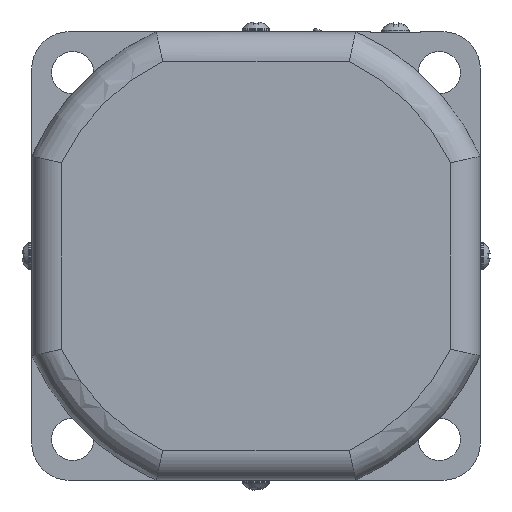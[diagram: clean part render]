
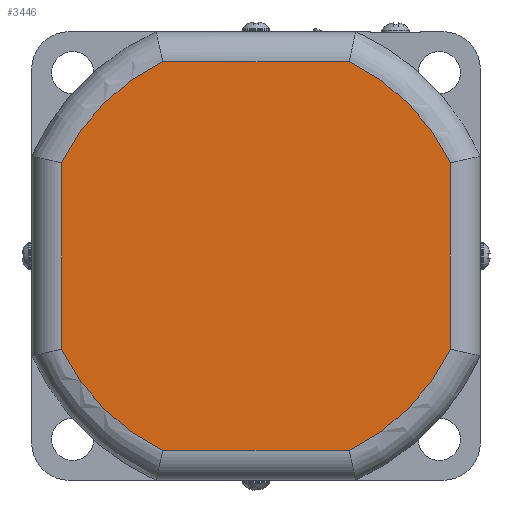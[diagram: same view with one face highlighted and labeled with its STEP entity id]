
A CAD part, left-side view. The second image highlights one B-rep face of the part: STEP entity #3446.
In plain terms, the highlighted planar face has unit normal (-1, 0, 0).
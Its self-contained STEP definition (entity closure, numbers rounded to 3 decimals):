
#353=FACE_OUTER_BOUND('',#580,.T.);
#580=EDGE_LOOP('',(#2636,#2637,#2638,#2639,#2640,#2641,#2642,#2643));
#768=CIRCLE('',#3700,43.25);
#769=CIRCLE('',#3704,43.25);
#772=CIRCLE('',#3708,43.25);
#773=CIRCLE('',#3712,43.25);
#982=LINE('',#5637,#1229);
#985=LINE('',#5657,#1232);
#986=LINE('',#5710,#1233);
#987=LINE('',#5727,#1234);
#1229=VECTOR('',#4327,37.393);
#1232=VECTOR('',#4332,37.393);
#1233=VECTOR('',#4347,37.393);
#1234=VECTOR('',#4350,37.393);
#1508=VERTEX_POINT('',#5587);
#1510=VERTEX_POINT('',#5604);
#1512=VERTEX_POINT('',#5622);
#1514=VERTEX_POINT('',#5641);
#1515=VERTEX_POINT('',#5659);
#1516=VERTEX_POINT('',#5677);
#1517=VERTEX_POINT('',#5695);
#1518=VERTEX_POINT('',#5712);
#1908=EDGE_CURVE('',#1510,#1508,#768,.T.);
#1910=EDGE_CURVE('',#1512,#1510,#982,.T.);
#1914=EDGE_CURVE('',#1508,#1514,#985,.T.);
#1916=EDGE_CURVE('',#1515,#1512,#769,.T.);
#1920=EDGE_CURVE('',#1514,#1516,#772,.T.);
#1922=EDGE_CURVE('',#1517,#1515,#986,.T.);
#1924=EDGE_CURVE('',#1516,#1518,#987,.T.);
#1925=EDGE_CURVE('',#1518,#1517,#773,.T.);
#2636=ORIENTED_EDGE('',*,*,#1924,.F.);
#2637=ORIENTED_EDGE('',*,*,#1920,.F.);
#2638=ORIENTED_EDGE('',*,*,#1914,.F.);
#2639=ORIENTED_EDGE('',*,*,#1908,.F.);
#2640=ORIENTED_EDGE('',*,*,#1910,.F.);
#2641=ORIENTED_EDGE('',*,*,#1916,.F.);
#2642=ORIENTED_EDGE('',*,*,#1922,.F.);
#2643=ORIENTED_EDGE('',*,*,#1925,.F.);
#3087=PLANE('',#3714);
#3446=ADVANCED_FACE('',(#353),#3087,.F.);
#3700=AXIS2_PLACEMENT_3D('',#5619,#4323,#4324);
#3704=AXIS2_PLACEMENT_3D('',#5674,#4335,#4336);
#3708=AXIS2_PLACEMENT_3D('',#5693,#4343,#4344);
#3712=AXIS2_PLACEMENT_3D('',#5729,#4353,#4354);
#3714=AXIS2_PLACEMENT_3D('',#5731,#4357,#4358);
#4323=DIRECTION('center_axis',(1.,0.,0.));
#4324=DIRECTION('ref_axis',(0.,0.707,-0.707));
#4327=DIRECTION('',(0.,1.,0.));
#4332=DIRECTION('',(0.,0.,1.));
#4335=DIRECTION('center_axis',(1.,0.,0.));
#4336=DIRECTION('ref_axis',(0.,-0.707,-0.707));
#4343=DIRECTION('center_axis',(1.,0.,0.));
#4344=DIRECTION('ref_axis',(0.,0.707,0.707));
#4347=DIRECTION('',(0.,0.,-1.));
#4350=DIRECTION('',(0.,-1.,0.));
#4353=DIRECTION('center_axis',(1.,0.,0.));
#4354=DIRECTION('ref_axis',(0.,-0.707,0.707));
#4357=DIRECTION('center_axis',(1.,0.,0.));
#4358=DIRECTION('ref_axis',(0.,1.,0.));
#5587=CARTESIAN_POINT('',(-17.8,39.,-18.697));
#5604=CARTESIAN_POINT('',(-17.8,18.697,-39.));
#5619=CARTESIAN_POINT('Origin',(-17.8,0.,
0.));
#5622=CARTESIAN_POINT('',(-17.8,-18.697,-39.));
#5637=CARTESIAN_POINT('',(-17.8,-18.697,-39.));
#5641=CARTESIAN_POINT('',(-17.8,39.,18.697));
#5657=CARTESIAN_POINT('',(-17.8,39.,-18.697));
#5659=CARTESIAN_POINT('',(-17.8,-39.,-18.697));
#5674=CARTESIAN_POINT('Origin',(-17.8,0.,
0.));
#5677=CARTESIAN_POINT('',(-17.8,18.697,39.));
#5693=CARTESIAN_POINT('Origin',(-17.8,0.,
0.));
#5695=CARTESIAN_POINT('',(-17.8,-39.,18.697));
#5710=CARTESIAN_POINT('',(-17.8,-39.,18.697));
#5712=CARTESIAN_POINT('',(-17.8,-18.697,39.));
#5727=CARTESIAN_POINT('',(-17.8,18.697,39.));
#5729=CARTESIAN_POINT('Origin',(-17.8,0.,
0.));
#5731=CARTESIAN_POINT('Origin',(-17.8,0.,
0.));
